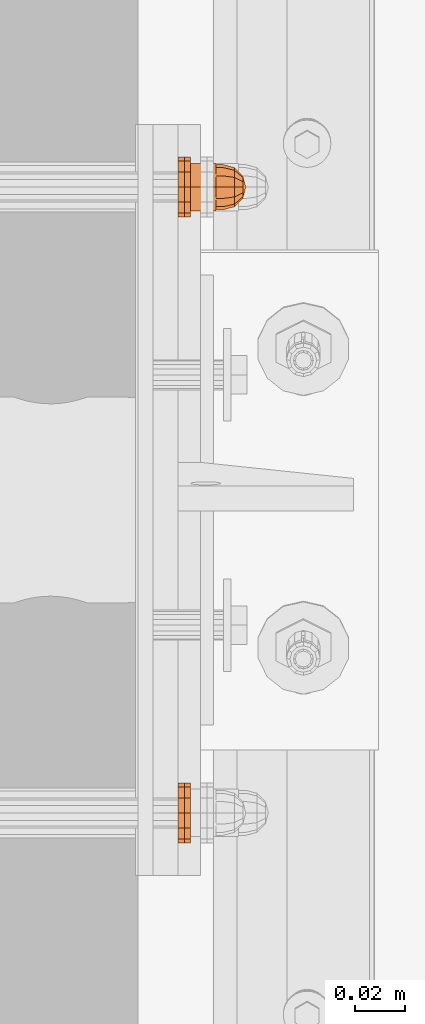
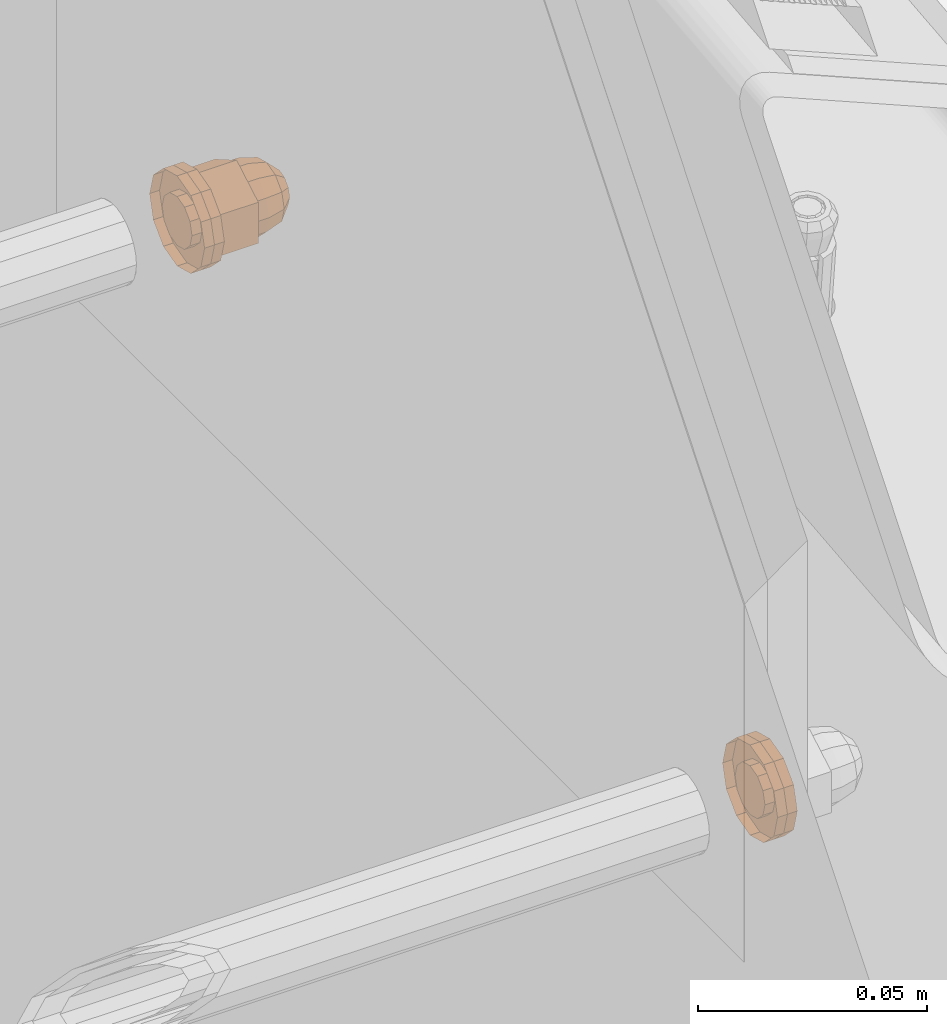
# One storey, part 106 of 162: 5 proxies.
"""IFC2X3 building model written with IfcOpenShell, lengths in millimetres."""

import ifcopenshell
import ifcopenshell.guid

model = None  # the IFC model being written
_history = None  # IfcOwnerHistory: only IFC2X3 demands one
_inside = {}  # id of a spatial element -> (the spatial element, [elements in it])
_under = {}  # id of a project, library or spatial element -> (it, [spatial elements below it])
_declared = {}  # id of a project -> (the project, [libraries it declares])
_typed = {}  # id of a type object -> (the type object, [elements of that type])
_made_of = {}  # id of a material, layer set ... -> (it, [elements and type objects made of it])


def new_model(schema):
    """Start an empty IFC model of exactly this schema.

    Asked for "IFC4X3", IfcOpenShell would pick the latest addendum, in which some entities
    have other attributes; the version numbers below select the first issue.
    IFC2X3 requires an IfcOwnerHistory on every rooted entity: one is made here for all.
    """
    global model, _history
    if schema == "IFC4X3":
        model = ifcopenshell.file(schema_version=(4, 3, 0, 0))
    else:
        model = ifcopenshell.file(schema=schema)
    _inside.clear()
    _under.clear()
    _declared.clear()
    _typed.clear()
    _made_of.clear()
    _history = None
    if model.schema == "IFC2X3":
        org = make("IfcOrganization", Name="unknown")
        user = make(
            "IfcPersonAndOrganization",
            ThePerson=make("IfcPerson", FamilyName="unknown"),
            TheOrganization=org,
        )
        app = make(
            "IfcApplication",
            ApplicationDeveloper=org,
            Version="unknown",
            ApplicationFullName="unknown",
            ApplicationIdentifier="unknown",
        )
        _history = make(
            "IfcOwnerHistory",
            OwningUser=user,
            OwningApplication=app,
            ChangeAction="ADDED",
            CreationDate=0,
        )
    return model


def make(cls, **values):
    """One entity of the class cls with the attributes given. An attribute that is None is left unset."""
    return model.create_entity(
        cls, **{name: value for name, value in values.items() if value is not None}
    )


def entity(cls, *values):
    """Any entity or typed value of the class cls, its attributes in the order of the schema. None: left unset."""
    e = model.create_entity(cls)
    for i, value in enumerate(values):
        if value is not None:
            e[i] = value
    return e


def rooted(cls, **values):
    """An entity with a GlobalId (a new one), such as an element, a storey or a relation."""
    return make(cls, GlobalId=ifcopenshell.guid.new(), OwnerHistory=_history, **values)


def si_unit(unit_type, name, prefix=None):
    """IfcSIUnit, for example si_unit("LENGTHUNIT", "METRE", prefix="MILLI")."""
    return make("IfcSIUnit", UnitType=unit_type, Prefix=prefix, Name=name)


def converted_unit(unit_type, name, factor, base, dimensions=None, offset=None):
    """IfcConversionBasedUnit, such as the inch: factor (a typed value) times the base unit."""
    return make(
        "IfcConversionBasedUnit"
        if offset is None
        else "IfcConversionBasedUnitWithOffset",
        ConversionOffset=offset,
        Dimensions=None
        if dimensions is None
        else entity("IfcDimensionalExponents", *dimensions),
        UnitType=unit_type,
        Name=name,
        ConversionFactor=make(
            "IfcMeasureWithUnit", ValueComponent=factor, UnitComponent=base
        ),
    )


def assignment(units):
    """IfcUnitAssignment: the units of a project."""
    return None if units is None else make("IfcUnitAssignment", Units=units)


def point(xyz):
    """IfcCartesianPoint."""
    return None if xyz is None else make("IfcCartesianPoint", Coordinates=xyz)


def direction(xyz):
    """IfcDirection."""
    return None if xyz is None else make("IfcDirection", DirectionRatios=xyz)


def frame(location, z_axis=None, x_axis=None):
    """IfcAxis2Placement3D, a coordinate frame: its origin and axes. An axis left out is left unset."""
    return make(
        "IfcAxis2Placement3D",
        Location=point(location),
        Axis=direction(z_axis),
        RefDirection=direction(x_axis),
    )


def origin_with_axes():
    """The frame at (0, 0, 0) with the z axis (0, 0, 1) and the x axis (1, 0, 0) written out."""
    return frame((0.0, 0.0, 0.0), z_axis=(0.0, 0.0, 1.0), x_axis=(1.0, 0.0, 0.0))


def place(relative_to, where):
    """IfcLocalPlacement: puts the frame where relative to a parent placement (None: the world)."""
    return make(
        "IfcLocalPlacement", PlacementRelTo=relative_to, RelativePlacement=where
    )


def context(
    kind, dimensions, precision=None, world=None, true_north=None, identifier=None
):
    """IfcGeometricRepresentationContext, for example the 3D "Model" context."""
    return make(
        "IfcGeometricRepresentationContext",
        ContextIdentifier=identifier,
        ContextType=kind,
        CoordinateSpaceDimension=dimensions,
        Precision=precision,
        WorldCoordinateSystem=world,
        TrueNorth=true_north,
    )


def project(units=None, contexts=None):
    """IfcProject with its units and contexts."""
    return rooted(
        "IfcProject",
        Name="project",
        RepresentationContexts=contexts,
        UnitsInContext=assignment(units),
    )


def spatial(cls, under=None, at=None, **own):
    """A site, building, storey or space (cls), placed at a placement, below another one or the project."""
    s = rooted(cls, ObjectPlacement=at, **own)
    if under is not None:
        _under.setdefault(under.id(), (under, []))[1].append(s)
    return s


def faces_of(points, faces, orient=None, outer=None):
    """IfcFace entities. A face is a list of loops; a loop is a list of indices into points, from 0.

    orient and outer hold one flag for each loop. By default every Orientation is true, the
    first loop of a face is its IfcFaceOuterBound and the others are IfcFaceBound.
    """
    made = []
    for i, loops in enumerate(faces):
        bounds = []
        for j, loop in enumerate(loops):
            is_outer = j == 0 if outer is None else outer[i][j]
            bounds.append(
                make(
                    "IfcFaceOuterBound" if is_outer else "IfcFaceBound",
                    Bound=make("IfcPolyLoop", Polygon=[points[k] for k in loop]),
                    Orientation=True if orient is None else orient[i][j],
                )
            )
        made.append(make("IfcFace", Bounds=bounds))
    return made


def faceted_brep(points, faces, orient=None, outer=None, voids=None):
    """IfcFacetedBrep: a solid bounded by flat faces; with voids (closed shells), ...WithVoids."""
    shared = [point(p) for p in points]
    hull = make("IfcClosedShell", CfsFaces=faces_of(shared, faces, orient, outer))
    if voids is None:
        return make("IfcFacetedBrep", Outer=hull)
    return make(
        "IfcFacetedBrepWithVoids",
        Outer=hull,
        Voids=[
            make(cls, CfsFaces=faces_of(shared, fs, o, b)) for cls, fs, o, b in voids
        ],
    )


def shape(context_of_items, identifier, shape_type, items):
    """IfcShapeRepresentation: the items that make up one representation, for example the "Body"."""
    return make(
        "IfcShapeRepresentation",
        ContextOfItems=context_of_items,
        RepresentationIdentifier=identifier,
        RepresentationType=shape_type,
        Items=items,
    )


def material(Name=None, Category=None):
    """IfcMaterial."""
    return make("IfcMaterial", Name=Name, Category=Category)


def made_of(thing, what):
    """Note that an element or type object is made of a material, layer set ...; save() writes the relation."""
    if what is not None:
        _made_of.setdefault(what.id(), (what, []))[1].append(thing)
    return thing


def element(
    cls,
    number,
    at=None,
    inside=None,
    cuts=None,
    type_object=None,
    material=None,
    context=None,
    identifier="Body",
    shape_type=None,
    held_by="IfcProductDefinitionShape",
    body=None,
    shapes=None,
    **own,
):
    """One element of the class cls, such as IfcWall. Its Tag is "e" and its number.

    at: its placement. inside: the storey or other place that contains it. cuts: it is an
    opening in that element (IfcRelVoidsElement). A single representation is given by context,
    identifier, shape_type and body (its items); several are given by shapes. held_by: the class
    of the entity that holds the representations. save() writes the other relations.
    """
    e = rooted(cls, Tag="e%d" % number, ObjectPlacement=at, **own)
    if body is not None:
        shapes = [shape(context, identifier, shape_type, body)]
    if shapes is not None:
        e.Representation = make(held_by, Representations=shapes)
    if inside is not None:
        _inside.setdefault(inside.id(), (inside, []))[1].append(e)
    if cuts is not None:
        rooted(
            "IfcRelVoidsElement", RelatingBuildingElement=cuts, RelatedOpeningElement=e
        )
    if type_object is not None:
        _typed.setdefault(type_object.id(), (type_object, []))[1].append(e)
    return made_of(e, material)


def aggregate(whole, parts):
    """IfcRelAggregates: a whole, such as a stair, and the parts it consists of."""
    return rooted("IfcRelAggregates", RelatingObject=whole, RelatedObjects=parts)


def save(model, path):
    """Write the relations noted so far, then the file.

    IfcRelAggregates (storeys below a building ...), IfcRelContainedInSpatialStructure (elements
    in a storey), IfcRelDefinesByType, IfcRelAssociatesMaterial and IfcRelDeclares: one each for
    every whole, place, type object, material and project.
    """
    for whole, parts in _under.values():
        aggregate(whole, parts)
    for where, things in _inside.values():
        rooted(
            "IfcRelContainedInSpatialStructure",
            RelatedElements=things,
            RelatingStructure=where,
        )
    for kind, things in _typed.values():
        rooted("IfcRelDefinesByType", RelatedObjects=things, RelatingType=kind)
    for what, things in _made_of.values():
        rooted("IfcRelAssociatesMaterial", RelatedObjects=things, RelatingMaterial=what)
    for by, libraries in _declared.values():
        rooted("IfcRelDeclares", RelatingContext=by, RelatedDefinitions=libraries)
    model.write(path)


model = new_model("IFC2X3")

# Units and contexts
model_context = context("Model", 3, precision=1e-09, world=origin_with_axes())
ifc_project = project(units=[si_unit("LENGTHUNIT", "METRE", prefix="MILLI"), si_unit("AREAUNIT", "SQUARE_METRE"), si_unit("VOLUMEUNIT", "CUBIC_METRE"), converted_unit("PLANEANGLEUNIT", "DEGREE", entity("IfcPlaneAngleMeasure", 0.01745329), si_unit("PLANEANGLEUNIT", "RADIAN"), dimensions=[0, 0, 0, 0, 0, 0, 0])], contexts=[model_context])

# Site, building, storey
site_placement = place(None, origin_with_axes())
site = spatial("IfcSite", under=ifc_project, at=site_placement, Name="Hermannstra?e 1a, 60318 Frankfurt", CompositionType="ELEMENT")
building_placement = place(site_placement, origin_with_axes())
building = spatial("IfcBuilding", under=site, at=building_placement, Name="Struktur 1", CompositionType="ELEMENT")
storey_placement = place(building_placement, origin_with_axes())
storey = spatial("IfcBuildingStorey", under=building, at=storey_placement, Name="Default Storey", CompositionType="ELEMENT", Elevation=0.0)

# Proxies
ifc_material_1 = material(Name="A4")
proxy_1_placement = place(None, origin_with_axes())
element("IfcBuildingElementProxy", 1, at=proxy_1_placement, inside=storey, material=ifc_material_1, ObjectType="-", context=model_context, shape_type="Brep", body=[
    faceted_brep([(2541.80936482, 1670.217776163, 17241.045442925), (2544.30936482, 1670.217776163, 17241.045442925), (2544.30936482, 1674.610081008, 17245.43774777), (2541.80936482, 1674.610081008, 17245.43774777), (2544.30936482, 1668.610081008, 17235.045442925), (2544.30936482, 1670.217776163, 17229.045442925), (2544.30936482, 1674.610081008, 17224.653138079), (2544.30936482, 1680.610081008, 17223.045442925), (2544.30936482, 1686.610081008, 17224.653138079), (2544.30936482, 1691.002385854, 17229.045442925), (2544.30936482, 1692.610081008, 17235.045442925), (2544.30936482, 1691.002385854, 17241.045442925), (2544.30936482, 1686.610081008, 17245.43774777), (2544.30936482, 1680.610081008, 17247.045442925), (2544.30936482, 1680.610081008, 17241.545442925), (2544.30936482, 1683.860081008, 17240.674608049), (2544.30936482, 1686.239246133, 17238.295442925), (2544.30936482, 1687.110081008, 17235.045442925), (2544.30936482, 1686.239246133, 17231.795442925), (2544.30936482, 1683.860081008, 17229.4162778), (2544.30936482, 1680.610081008, 17228.545442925), (2544.30936482, 1677.360081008, 17229.4162778), (2544.30936482, 1674.980915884, 17231.795442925), (2544.30936482, 1674.110081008, 17235.045442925), (2544.30936482, 1674.980915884, 17238.295442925), (2544.30936482, 1677.360081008, 17240.674608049), (2541.80936482, 1674.980915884, 17238.295442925), (2541.80936482, 1674.110081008, 17235.045442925), (2541.80936482, 1674.980915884, 17231.795442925), (2541.80936482, 1677.360081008, 17229.4162778), (2541.80936482, 1680.610081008, 17228.545442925), (2541.80936482, 1683.860081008, 17229.4162778), (2541.80936482, 1686.239246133, 17231.795442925), (2541.80936482, 1687.110081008, 17235.045442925), (2541.80936482, 1686.239246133, 17238.295442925), (2541.80936482, 1683.860081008, 17240.674608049), (2541.80936482, 1680.610081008, 17241.545442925), (2541.80936482, 1677.360081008, 17240.674608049), (2541.80936482, 1668.610081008, 17235.045442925), (2541.80936482, 1680.610081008, 17247.045442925), (2541.80936482, 1670.217776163, 17229.045442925), (2541.80936482, 1686.610081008, 17245.43774777), (2541.80936482, 1674.610081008, 17224.653138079), (2541.80936482, 1691.002385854, 17241.045442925), (2541.80936482, 1680.610081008, 17223.045442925), (2541.80936482, 1692.610081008, 17235.045442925), (2541.80936482, 1686.610081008, 17224.653138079), (2541.80936482, 1691.002385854, 17229.045442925)], [[[0, 1, 2, 3]], [[2, 1, 4, 5, 6, 7, 8, 9, 10, 11, 12, 13], [14, 15, 16, 17, 18, 19, 20, 21, 22, 23, 24, 25]], [[26, 27, 28, 29, 30, 31, 32, 33, 34, 35, 36, 37]], [[24, 26, 37, 25]], [[1, 0, 38, 4]], [[26, 24, 23, 27]], [[25, 37, 36, 14]], [[3, 2, 13, 39]], [[4, 38, 40, 5]], [[27, 23, 22, 28]], [[14, 36, 35, 15]], [[39, 13, 12, 41]], [[5, 40, 42, 6]], [[28, 22, 21, 29]], [[15, 35, 34, 16]], [[41, 12, 11, 43]], [[33, 17, 16, 34]], [[6, 42, 44, 7]], [[29, 21, 20, 30]], [[32, 18, 17, 33]], [[43, 11, 10, 45]], [[19, 31, 30, 20]], [[18, 32, 31, 19]], [[7, 44, 46, 8]], [[45, 10, 9, 47]], [[8, 46, 47, 9]]]),
])
ifc_material_2 = material(Name="Kunststoff")
proxy_2_placement = place(None, origin_with_axes())
element("IfcBuildingElementProxy", 2, at=proxy_2_placement, inside=storey, material=ifc_material_2, ObjectType="-", context=model_context, shape_type="Brep", body=[
    faceted_brep([(2539.30936482, 1691.002385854, 17241.045442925), (2541.80936482, 1691.002385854, 17241.045442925), (2541.80936482, 1692.610081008, 17235.045442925), (2539.30936482, 1692.610081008, 17235.045442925), (2539.30936482, 1686.239246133, 17238.295442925), (2539.30936482, 1683.860081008, 17240.674608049), (2539.30936482, 1680.610081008, 17241.545442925), (2539.30936482, 1677.360081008, 17240.674608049), (2539.30936482, 1674.980915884, 17238.295442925), (2539.30936482, 1674.110081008, 17235.045442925), (2539.30936482, 1674.980915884, 17231.795442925), (2539.30936482, 1677.360081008, 17229.4162778), (2539.30936482, 1680.610081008, 17228.545442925), (2539.30936482, 1683.860081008, 17229.4162778), (2539.30936482, 1686.239246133, 17231.795442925), (2539.30936482, 1687.110081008, 17235.045442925), (2541.80936482, 1687.110081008, 17235.045442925), (2541.80936482, 1686.239246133, 17238.295442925), (2541.80936482, 1686.610081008, 17245.43774777), (2541.80936482, 1680.610081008, 17247.045442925), (2541.80936482, 1674.610081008, 17245.43774777), (2541.80936482, 1670.217776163, 17241.045442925), (2541.80936482, 1668.610081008, 17235.045442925), (2541.80936482, 1670.217776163, 17229.045442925), (2541.80936482, 1674.610081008, 17224.653138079), (2541.80936482, 1680.610081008, 17223.045442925), (2541.80936482, 1686.610081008, 17224.653138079), (2541.80936482, 1691.002385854, 17229.045442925), (2539.30936482, 1686.610081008, 17245.43774777), (2541.80936482, 1686.239246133, 17231.795442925), (2539.30936482, 1691.002385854, 17229.045442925), (2541.80936482, 1683.860081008, 17240.674608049), (2539.30936482, 1680.610081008, 17247.045442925), (2541.80936482, 1683.860081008, 17229.4162778), (2539.30936482, 1686.610081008, 17224.653138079), (2541.80936482, 1680.610081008, 17241.545442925), (2541.80936482, 1680.610081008, 17228.545442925), (2539.30936482, 1674.610081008, 17245.43774777), (2541.80936482, 1677.360081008, 17240.674608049), (2539.30936482, 1680.610081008, 17223.045442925), (2541.80936482, 1677.360081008, 17229.4162778), (2539.30936482, 1670.217776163, 17241.045442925), (2541.80936482, 1674.980915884, 17238.295442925), (2539.30936482, 1674.610081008, 17224.653138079), (2541.80936482, 1674.980915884, 17231.795442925), (2539.30936482, 1668.610081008, 17235.045442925), (2541.80936482, 1674.110081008, 17235.045442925), (2539.30936482, 1670.217776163, 17229.045442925)], [[[0, 1, 2, 3]], [[4, 5, 6, 7, 8, 9, 10, 11, 12, 13, 14, 15]], [[15, 16, 17, 4]], [[1, 18, 19, 20, 21, 22, 23, 24, 25, 26, 27, 2]], [[1, 0, 28, 18]], [[16, 15, 14, 29]], [[3, 2, 27, 30]], [[4, 17, 31, 5]], [[18, 28, 32, 19]], [[29, 14, 13, 33]], [[30, 27, 26, 34]], [[5, 31, 35, 6]], [[33, 13, 12, 36]], [[19, 32, 37, 20]], [[6, 35, 38, 7]], [[34, 26, 25, 39]], [[36, 12, 11, 40]], [[20, 37, 41, 21]], [[7, 38, 42, 8]], [[39, 25, 24, 43]], [[40, 11, 10, 44]], [[21, 41, 45, 22]], [[8, 42, 46, 9]], [[43, 24, 23, 47]], [[44, 10, 9, 46]], [[22, 45, 47, 23]]]),
])
proxy_3_placement = place(None, origin_with_axes())
element("IfcBuildingElementProxy", 3, at=proxy_3_placement, inside=storey, material=ifc_material_1, ObjectType="-", context=model_context, shape_type="Brep", body=[
    faceted_brep([(2554.30936482, 1936.610081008, 17235.045442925), (2544.30936482, 1936.610081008, 17235.045442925), (2544.30936482, 1935.806233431, 17232.045442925), (2554.30936482, 1935.806233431, 17232.045442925), (2544.30936482, 1933.610081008, 17229.849290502), (2554.30936482, 1933.610081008, 17229.849290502), (2554.30936482, 1935.806233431, 17238.045442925), (2544.30936482, 1935.806233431, 17238.045442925), (2544.30936482, 1940.089950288, 17240.518648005), (2544.30936482, 1940.089950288, 17229.572237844), (2544.30936482, 1930.610081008, 17224.099032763), (2544.30936482, 1921.130211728, 17229.572237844), (2544.30936482, 1921.130211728, 17240.518648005), (2544.30936482, 1930.610081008, 17245.991853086), (2544.30936482, 1933.610081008, 17240.241595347), (2544.30936482, 1930.610081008, 17241.045442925), (2544.30936482, 1927.610081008, 17240.241595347), (2544.30936482, 1925.413928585, 17238.045442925), (2544.30936482, 1924.610081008, 17235.045442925), (2544.30936482, 1925.413928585, 17232.045442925), (2544.30936482, 1927.610081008, 17229.849290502), (2544.30936482, 1930.610081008, 17229.045442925), (2554.30936482, 1940.089950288, 17240.518648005), (2554.30936482, 1930.610081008, 17245.991853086), (2554.30936482, 1921.130211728, 17240.518648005), (2554.30936482, 1921.130211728, 17229.572237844), (2554.30936482, 1930.610081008, 17224.099032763), (2554.30936482, 1940.089950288, 17229.572237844), (2554.30936482, 1933.610081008, 17240.241595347), (2554.30936482, 1930.610081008, 17229.045442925), (2554.30936482, 1930.610081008, 17241.045442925), (2554.30936482, 1927.610081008, 17229.849290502), (2554.30936482, 1927.610081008, 17240.241595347), (2554.30936482, 1925.413928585, 17232.045442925), (2554.30936482, 1925.413928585, 17238.045442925), (2554.30936482, 1924.610081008, 17235.045442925)], [[[0, 1, 2, 3]], [[3, 2, 4, 5]], [[1, 0, 6, 7]], [[8, 9, 10, 11, 12, 13], [7, 14, 15, 16, 17, 18, 19, 20, 21, 4, 2, 1]], [[22, 23, 24, 25, 26, 27]], [[7, 6, 28, 14]], [[22, 27, 9, 8]], [[5, 4, 21, 29]], [[10, 9, 27, 26]], [[14, 28, 30, 15]], [[23, 22, 8, 13]], [[29, 21, 20, 31]], [[11, 10, 26, 25]], [[15, 30, 32, 16]], [[24, 23, 13, 12]], [[31, 20, 19, 33]], [[25, 24, 12, 11]], [[16, 32, 34, 17]], [[33, 19, 18, 35]], [[17, 34, 35, 18]]]),
    faceted_brep([(2557.30936482, 1930.610081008, 17244.045442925), (2554.30936482, 1930.610081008, 17244.045442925), (2554.30936482, 1926.110081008, 17242.839671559), (2557.30936482, 1926.110081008, 17242.839671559), (2557.30936482, 1935.110081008, 17242.839671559), (2554.30936482, 1935.110081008, 17242.839671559), (2557.30936482, 1935.110081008, 17227.251214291), (2557.30936482, 1938.404309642, 17230.545442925), (2557.30936482, 1939.610081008, 17235.045442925), (2557.30936482, 1938.404309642, 17239.545442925), (2557.30936482, 1922.815852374, 17239.545442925), (2557.30936482, 1921.610081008, 17235.045442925), (2557.30936482, 1922.815852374, 17230.545442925), (2557.30936482, 1926.110081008, 17227.251214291), (2557.30936482, 1930.610081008, 17226.045442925), (2554.30936482, 1926.110081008, 17227.251214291), (2554.30936482, 1922.815852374, 17230.545442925), (2554.30936482, 1921.610081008, 17235.045442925), (2554.30936482, 1922.815852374, 17239.545442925), (2554.30936482, 1938.404309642, 17239.545442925), (2554.30936482, 1939.610081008, 17235.045442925), (2554.30936482, 1938.404309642, 17230.545442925), (2554.30936482, 1935.110081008, 17227.251214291), (2554.30936482, 1930.610081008, 17226.045442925)], [[[0, 1, 2, 3]], [[1, 0, 4, 5]], [[6, 7, 8, 9, 4, 0, 3, 10, 11, 12, 13, 14]], [[15, 16, 17, 18, 2, 1, 5, 19, 20, 21, 22, 23]], [[3, 2, 18, 10]], [[5, 4, 9, 19]], [[10, 18, 17, 11]], [[19, 9, 8, 20]], [[22, 6, 14, 23]], [[7, 21, 20, 8]], [[6, 22, 21, 7]], [[11, 17, 16, 12]], [[23, 14, 13, 15]], [[12, 16, 15, 13]]]),
    faceted_brep([(2561.80936482, 1937.360081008, 17238.942557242), (2557.30936482, 1938.404309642, 17239.545442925), (2557.30936482, 1935.110081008, 17242.839671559), (2561.80936482, 1934.507195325, 17241.795442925), (2557.30936482, 1926.110081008, 17227.251214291), (2557.30936482, 1922.815852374, 17230.545442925), (2557.30936482, 1921.610081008, 17235.045442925), (2557.30936482, 1922.815852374, 17239.545442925), (2557.30936482, 1926.110081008, 17242.839671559), (2557.30936482, 1930.610081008, 17244.045442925), (2557.30936482, 1939.610081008, 17235.045442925), (2557.30936482, 1938.404309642, 17230.545442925), (2557.30936482, 1935.110081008, 17227.251214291), (2557.30936482, 1930.610081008, 17226.045442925), (2561.80936482, 1930.610081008, 17242.839671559), (2565.103593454, 1935.110081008, 17235.045442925), (2561.80936482, 1938.404309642, 17235.045442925), (2565.103593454, 1934.507195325, 17237.295442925), (2561.80936482, 1926.712966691, 17241.795442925), (2565.103593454, 1932.860081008, 17238.942557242), (2565.103593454, 1934.507195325, 17232.795442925), (2561.80936482, 1937.360081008, 17231.148328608), (2565.103593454, 1930.610081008, 17239.545442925), (2566.30936482, 1930.610081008, 17235.045442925), (2565.103593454, 1932.860081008, 17231.148328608), (2561.80936482, 1934.507195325, 17228.295442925), (2561.80936482, 1930.610081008, 17227.251214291), (2561.80936482, 1923.860081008, 17238.942557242), (2565.103593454, 1928.360081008, 17238.942557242), (2565.103593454, 1930.610081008, 17230.545442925), (2561.80936482, 1926.712966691, 17228.295442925), (2565.103593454, 1928.360081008, 17231.148328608), (2561.80936482, 1922.815852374, 17235.045442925), (2565.103593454, 1926.712966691, 17237.295442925), (2561.80936482, 1923.860081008, 17231.148328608), (2565.103593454, 1926.712966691, 17232.795442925), (2565.103593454, 1926.110081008, 17235.045442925)], [[[0, 1, 2, 3]], [[4, 5, 6, 7, 8, 9, 2, 1, 10, 11, 12, 13]], [[3, 2, 9, 14]], [[15, 16, 0, 17]], [[1, 0, 16, 10]], [[14, 9, 8, 18]], [[17, 0, 3, 19]], [[16, 15, 20, 21]], [[19, 3, 14, 22]], [[17, 23, 15]], [[24, 25, 21, 20]], [[15, 23, 20]], [[12, 25, 26, 13]], [[11, 21, 25, 12]], [[10, 16, 21, 11]], [[18, 8, 7, 27]], [[22, 14, 18, 28]], [[19, 23, 17]], [[29, 26, 25, 24]], [[20, 23, 24]], [[22, 23, 19]], [[13, 26, 30, 4]], [[26, 29, 31, 30]], [[24, 23, 29]], [[27, 7, 6, 32]], [[28, 18, 27, 33]], [[28, 23, 22]], [[29, 23, 31]], [[33, 23, 28]], [[4, 30, 34, 5]], [[30, 31, 35, 34]], [[31, 23, 35]], [[32, 6, 5, 34]], [[33, 27, 32, 36]], [[36, 23, 33]], [[35, 23, 36]], [[34, 35, 36, 32]]]),
])
proxy_4_placement = place(None, origin_with_axes())
element("IfcBuildingElementProxy", 4, at=proxy_4_placement, inside=storey, material=ifc_material_1, ObjectType="-", context=model_context, shape_type="Brep", body=[
    faceted_brep([(2541.80936482, 1920.217776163, 17241.045442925), (2544.30936482, 1920.217776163, 17241.045442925), (2544.30936482, 1924.610081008, 17245.43774777), (2541.80936482, 1924.610081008, 17245.43774777), (2544.30936482, 1918.610081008, 17235.045442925), (2544.30936482, 1920.217776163, 17229.045442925), (2544.30936482, 1924.610081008, 17224.653138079), (2544.30936482, 1930.610081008, 17223.045442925), (2544.30936482, 1936.610081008, 17224.653138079), (2544.30936482, 1941.002385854, 17229.045442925), (2544.30936482, 1942.610081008, 17235.045442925), (2544.30936482, 1941.002385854, 17241.045442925), (2544.30936482, 1936.610081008, 17245.43774777), (2544.30936482, 1930.610081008, 17247.045442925), (2544.30936482, 1930.610081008, 17241.545442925), (2544.30936482, 1933.860081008, 17240.674608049), (2544.30936482, 1936.239246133, 17238.295442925), (2544.30936482, 1937.110081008, 17235.045442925), (2544.30936482, 1936.239246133, 17231.795442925), (2544.30936482, 1933.860081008, 17229.4162778), (2544.30936482, 1930.610081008, 17228.545442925), (2544.30936482, 1927.360081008, 17229.4162778), (2544.30936482, 1924.980915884, 17231.795442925), (2544.30936482, 1924.110081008, 17235.045442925), (2544.30936482, 1924.980915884, 17238.295442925), (2544.30936482, 1927.360081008, 17240.674608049), (2541.80936482, 1924.980915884, 17238.295442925), (2541.80936482, 1924.110081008, 17235.045442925), (2541.80936482, 1924.980915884, 17231.795442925), (2541.80936482, 1927.360081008, 17229.4162778), (2541.80936482, 1930.610081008, 17228.545442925), (2541.80936482, 1933.860081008, 17229.4162778), (2541.80936482, 1936.239246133, 17231.795442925), (2541.80936482, 1937.110081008, 17235.045442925), (2541.80936482, 1936.239246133, 17238.295442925), (2541.80936482, 1933.860081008, 17240.674608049), (2541.80936482, 1930.610081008, 17241.545442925), (2541.80936482, 1927.360081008, 17240.674608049), (2541.80936482, 1918.610081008, 17235.045442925), (2541.80936482, 1930.610081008, 17247.045442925), (2541.80936482, 1920.217776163, 17229.045442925), (2541.80936482, 1936.610081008, 17245.43774777), (2541.80936482, 1924.610081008, 17224.653138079), (2541.80936482, 1941.002385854, 17241.045442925), (2541.80936482, 1930.610081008, 17223.045442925), (2541.80936482, 1942.610081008, 17235.045442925), (2541.80936482, 1936.610081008, 17224.653138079), (2541.80936482, 1941.002385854, 17229.045442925)], [[[0, 1, 2, 3]], [[2, 1, 4, 5, 6, 7, 8, 9, 10, 11, 12, 13], [14, 15, 16, 17, 18, 19, 20, 21, 22, 23, 24, 25]], [[26, 27, 28, 29, 30, 31, 32, 33, 34, 35, 36, 37]], [[24, 26, 37, 25]], [[1, 0, 38, 4]], [[26, 24, 23, 27]], [[25, 37, 36, 14]], [[3, 2, 13, 39]], [[4, 38, 40, 5]], [[27, 23, 22, 28]], [[14, 36, 35, 15]], [[39, 13, 12, 41]], [[5, 40, 42, 6]], [[28, 22, 21, 29]], [[15, 35, 34, 16]], [[41, 12, 11, 43]], [[33, 17, 16, 34]], [[6, 42, 44, 7]], [[29, 21, 20, 30]], [[32, 18, 17, 33]], [[43, 11, 10, 45]], [[19, 31, 30, 20]], [[18, 32, 31, 19]], [[7, 44, 46, 8]], [[45, 10, 9, 47]], [[8, 46, 47, 9]]]),
])
proxy_5_placement = place(None, origin_with_axes())
element("IfcBuildingElementProxy", 5, at=proxy_5_placement, inside=storey, material=ifc_material_2, ObjectType="-", context=model_context, shape_type="Brep", body=[
    faceted_brep([(2539.30936482, 1941.002385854, 17241.045442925), (2541.80936482, 1941.002385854, 17241.045442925), (2541.80936482, 1942.610081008, 17235.045442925), (2539.30936482, 1942.610081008, 17235.045442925), (2539.30936482, 1936.239246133, 17238.295442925), (2539.30936482, 1933.860081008, 17240.674608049), (2539.30936482, 1930.610081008, 17241.545442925), (2539.30936482, 1927.360081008, 17240.674608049), (2539.30936482, 1924.980915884, 17238.295442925), (2539.30936482, 1924.110081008, 17235.045442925), (2539.30936482, 1924.980915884, 17231.795442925), (2539.30936482, 1927.360081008, 17229.4162778), (2539.30936482, 1930.610081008, 17228.545442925), (2539.30936482, 1933.860081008, 17229.4162778), (2539.30936482, 1936.239246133, 17231.795442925), (2539.30936482, 1937.110081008, 17235.045442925), (2541.80936482, 1937.110081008, 17235.045442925), (2541.80936482, 1936.239246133, 17238.295442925), (2541.80936482, 1936.610081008, 17245.43774777), (2541.80936482, 1930.610081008, 17247.045442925), (2541.80936482, 1924.610081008, 17245.43774777), (2541.80936482, 1920.217776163, 17241.045442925), (2541.80936482, 1918.610081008, 17235.045442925), (2541.80936482, 1920.217776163, 17229.045442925), (2541.80936482, 1924.610081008, 17224.653138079), (2541.80936482, 1930.610081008, 17223.045442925), (2541.80936482, 1936.610081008, 17224.653138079), (2541.80936482, 1941.002385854, 17229.045442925), (2539.30936482, 1936.610081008, 17245.43774777), (2541.80936482, 1936.239246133, 17231.795442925), (2539.30936482, 1941.002385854, 17229.045442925), (2541.80936482, 1933.860081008, 17240.674608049), (2539.30936482, 1930.610081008, 17247.045442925), (2541.80936482, 1933.860081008, 17229.4162778), (2539.30936482, 1936.610081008, 17224.653138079), (2541.80936482, 1930.610081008, 17241.545442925), (2541.80936482, 1930.610081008, 17228.545442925), (2539.30936482, 1924.610081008, 17245.43774777), (2541.80936482, 1927.360081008, 17240.674608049), (2539.30936482, 1930.610081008, 17223.045442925), (2541.80936482, 1927.360081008, 17229.4162778), (2539.30936482, 1920.217776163, 17241.045442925), (2541.80936482, 1924.980915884, 17238.295442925), (2539.30936482, 1924.610081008, 17224.653138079), (2541.80936482, 1924.980915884, 17231.795442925), (2539.30936482, 1918.610081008, 17235.045442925), (2541.80936482, 1924.110081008, 17235.045442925), (2539.30936482, 1920.217776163, 17229.045442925)], [[[0, 1, 2, 3]], [[4, 5, 6, 7, 8, 9, 10, 11, 12, 13, 14, 15]], [[15, 16, 17, 4]], [[1, 18, 19, 20, 21, 22, 23, 24, 25, 26, 27, 2]], [[1, 0, 28, 18]], [[16, 15, 14, 29]], [[3, 2, 27, 30]], [[4, 17, 31, 5]], [[18, 28, 32, 19]], [[29, 14, 13, 33]], [[30, 27, 26, 34]], [[5, 31, 35, 6]], [[33, 13, 12, 36]], [[19, 32, 37, 20]], [[6, 35, 38, 7]], [[34, 26, 25, 39]], [[36, 12, 11, 40]], [[20, 37, 41, 21]], [[7, 38, 42, 8]], [[39, 25, 24, 43]], [[40, 11, 10, 44]], [[21, 41, 45, 22]], [[8, 42, 46, 9]], [[43, 24, 23, 47]], [[44, 10, 9, 46]], [[22, 45, 47, 23]]]),
])

save(model, "model.ifc")
